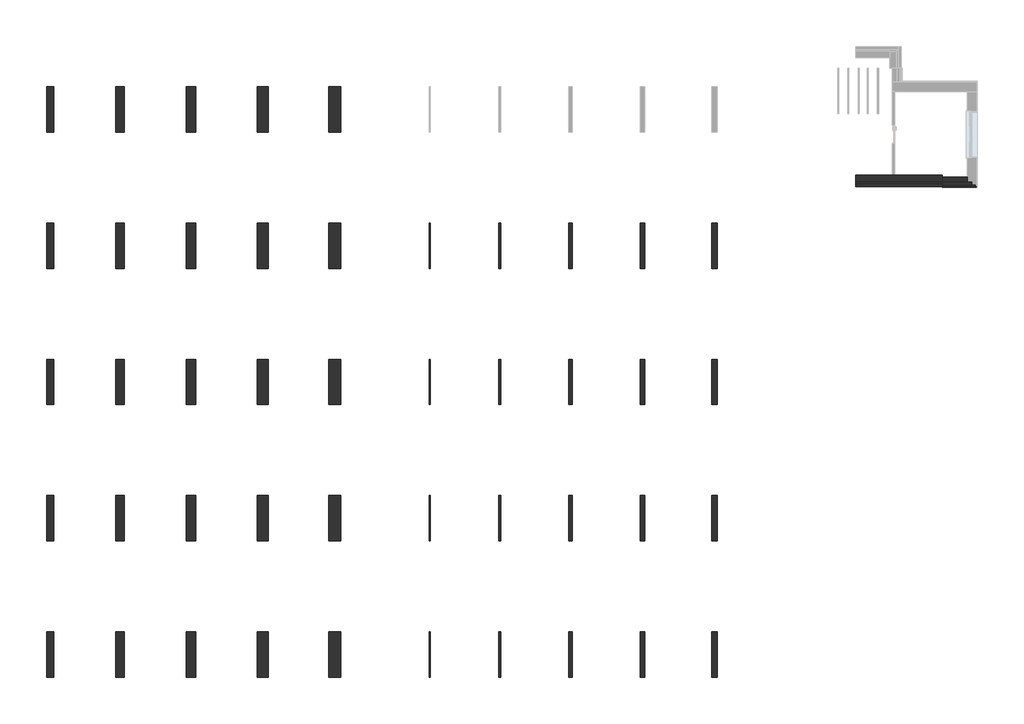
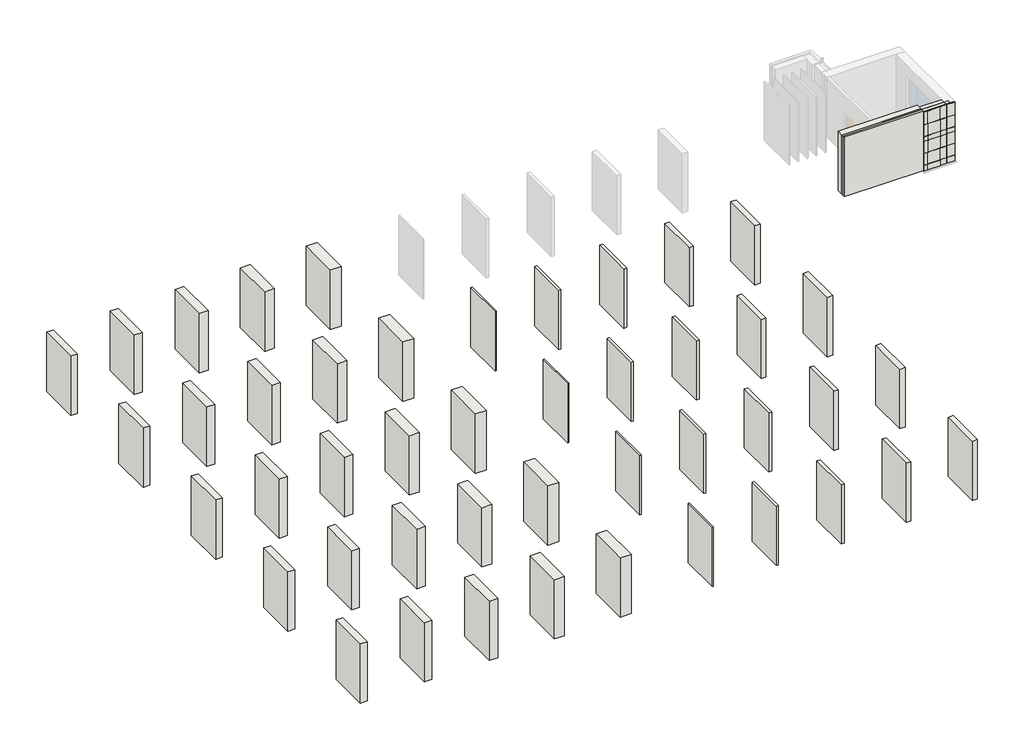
# One storey, part 1 of 2: 47 walls.
"""IFC4 building model written with IfcOpenShell, lengths in millimetres."""

from ifc_helpers import new_model, si_unit, frame, origin, origin_with_axes, place, context, project, spatial, polyline, outline, extrude, faceted_brep, element, save

model = new_model("IFC4")

# Units and contexts
model_context = context("Model", 3, world=origin())
ifc_project = project(units=[si_unit("LENGTHUNIT", "METRE", prefix="MILLI")], contexts=[model_context])

# Site, building, storey
site = spatial("IfcSite", under=ifc_project)
building = spatial("IfcBuilding", under=site)
storey = spatial("IfcBuildingStorey", under=building, Name="Этаж 1", Elevation=0.0)

# Walls
placement = place(None, origin())
element("IfcWall", 1, ObjectType="ВЕНТ-ФАСАД 320мм (Изоляция ЭКОВЕР Вент-фасад 50мм)", at=placement, inside=storey, context=model_context, shape_type="SweptSolid", body=[
    extrude(outline(polyline([(-242.278481, 1971.7721519), (-242.278481, 3971.7721519), (77.721519, 3971.7721519), (77.721519, 1971.7721519), (-242.278481, 1971.7721519)])), origin_with_axes(), (0.0, 0.0, 1.0), 3000.0),
])
element("IfcWall", 2, ObjectType="ВЕНТ-ФАСАД 370мм (Изоляция ЭКОВЕР ВЕНТ-ФАСАД 100мм)", at=placement, inside=storey, context=model_context, shape_type="SweptSolid", body=[
    extrude(outline(polyline([(2807.721519, 1971.7721519), (2807.721519, 3971.7721519), (3177.721519, 3971.7721519), (3177.721519, 1971.7721519), (2807.721519, 1971.7721519)])), origin_with_axes(), (0.0, 0.0, 1.0), 3000.0),
])
element("IfcWall", 3, ObjectType="ВЕНТ-ФАСАД 420мм (Изоляция ЭКОВЕР Вент-фасад 150мм)", at=placement, inside=storey, context=model_context, shape_type="SweptSolid", body=[
    extrude(outline(polyline([(5907.721519, 1971.7721519), (5907.721519, 3971.7721519), (6327.721519, 3971.7721519), (6327.721519, 1971.7721519), (5907.721519, 1971.7721519)])), origin_with_axes(), (0.0, 0.0, 1.0), 3000.0),
])
element("IfcWall", 4, ObjectType="ВЕНТ-ФАСАД 470мм (Изоляция ЭКОВЕР ВЕНТ-ФАСАД 200мм)", at=placement, inside=storey, context=model_context, shape_type="SweptSolid", body=[
    extrude(outline(polyline([(9032.721519, 1971.7721519), (9032.721519, 3971.7721519), (9502.721519, 3971.7721519), (9502.721519, 1971.7721519), (9032.721519, 1971.7721519)])), origin_with_axes(), (0.0, 0.0, 1.0), 3000.0),
])
element("IfcWall", 5, ObjectType="ВЕНТ-ФАСАД 520мм (Изоляция ЭКОВЕР ВЕНТ-ФАСАД 250мм)", at=placement, inside=storey, context=model_context, shape_type="SweptSolid", body=[
    extrude(outline(polyline([(12182.721519, 1971.7721519), (12182.721519, 3971.7721519), (12702.721519, 3971.7721519), (12702.721519, 1971.7721519), (12182.721519, 1971.7721519)])), origin_with_axes(), (0.0, 0.0, 1.0), 3000.0),
])
element("IfcWall", 6, ObjectType="ВЕНТ-ФАСАД 320мм (Изоляция ЭКОВЕР Вент-фасад 70 50мм)", at=placement, inside=storey, context=model_context, shape_type="SweptSolid", body=[
    extrude(outline(polyline([(-242.278481, -4028.2278481), (-242.278481, -2028.2278481), (77.721519, -2028.2278481), (77.721519, -4028.2278481), (-242.278481, -4028.2278481)])), origin_with_axes(), (0.0, 0.0, 1.0), 3000.0),
])
element("IfcWall", 7, ObjectType="ВЕНТ-ФАСАД 370мм (Изоляция ЭКОВЕР ВЕНТ-ФАСАД 70 100мм)", at=placement, inside=storey, context=model_context, shape_type="SweptSolid", body=[
    extrude(outline(polyline([(2807.721519, -4028.2278481), (2807.721519, -2028.2278481), (3177.721519, -2028.2278481), (3177.721519, -4028.2278481), (2807.721519, -4028.2278481)])), origin_with_axes(), (0.0, 0.0, 1.0), 3000.0),
])
element("IfcWall", 8, ObjectType="ВЕНТ-ФАСАД 420мм (Изоляция ЭКОВЕР Вент-фасад 70 150мм)", at=placement, inside=storey, context=model_context, shape_type="SweptSolid", body=[
    extrude(outline(polyline([(5907.721519, -4028.2278481), (5907.721519, -2028.2278481), (6327.721519, -2028.2278481), (6327.721519, -4028.2278481), (5907.721519, -4028.2278481)])), origin_with_axes(), (0.0, 0.0, 1.0), 3000.0),
])
element("IfcWall", 9, ObjectType="ВЕНТ-ФАСАД 470мм (Изоляция ЭКОВЕР ВЕНТ-ФАСАД 70 200мм)", at=placement, inside=storey, context=model_context, shape_type="SweptSolid", body=[
    extrude(outline(polyline([(9032.721519, -4028.2278481), (9032.721519, -2028.2278481), (9502.721519, -2028.2278481), (9502.721519, -4028.2278481), (9032.721519, -4028.2278481)])), origin_with_axes(), (0.0, 0.0, 1.0), 3000.0),
])
element("IfcWall", 10, ObjectType="ВЕНТ-ФАСАД 520мм (Изоляция ЭКОВЕР ВЕНТ-ФАСАД 70 250мм)", at=placement, inside=storey, context=model_context, shape_type="SweptSolid", body=[
    extrude(outline(polyline([(12182.721519, -4028.2278481), (12182.721519, -2028.2278481), (12702.721519, -2028.2278481), (12702.721519, -4028.2278481), (12182.721519, -4028.2278481)])), origin_with_axes(), (0.0, 0.0, 1.0), 3000.0),
])
element("IfcWall", 11, ObjectType="ВЕНТ-ФАСАД 320мм (Изоляция ЭКОВЕР Вент-фасад 80 50мм)", at=placement, inside=storey, context=model_context, shape_type="SweptSolid", body=[
    extrude(outline(polyline([(-242.278481, -10028.2278481), (-242.278481, -8028.2278481), (77.721519, -8028.2278481), (77.721519, -10028.2278481), (-242.278481, -10028.2278481)])), origin_with_axes(), (0.0, 0.0, 1.0), 3000.0),
])
element("IfcWall", 12, ObjectType="ВЕНТ-ФАСАД 370мм (Изоляция ЭКОВЕР ВЕНТ-ФАСАД 80 100мм)", at=placement, inside=storey, context=model_context, shape_type="SweptSolid", body=[
    extrude(outline(polyline([(2807.721519, -10028.2278481), (2807.721519, -8028.2278481), (3177.721519, -8028.2278481), (3177.721519, -10028.2278481), (2807.721519, -10028.2278481)])), origin_with_axes(), (0.0, 0.0, 1.0), 3000.0),
])
element("IfcWall", 13, ObjectType="ВЕНТ-ФАСАД 420мм (Изоляция ЭКОВЕР Вент-фасад 80 150мм)", at=placement, inside=storey, context=model_context, shape_type="SweptSolid", body=[
    extrude(outline(polyline([(5907.721519, -10028.2278481), (5907.721519, -8028.2278481), (6327.721519, -8028.2278481), (6327.721519, -10028.2278481), (5907.721519, -10028.2278481)])), origin_with_axes(), (0.0, 0.0, 1.0), 3000.0),
])
element("IfcWall", 14, ObjectType="ВЕНТ-ФАСАД 470мм (Изоляция ЭКОВЕР ВЕНТ-ФАСАД 80 200мм)", at=placement, inside=storey, context=model_context, shape_type="SweptSolid", body=[
    extrude(outline(polyline([(9032.721519, -10028.2278481), (9032.721519, -8028.2278481), (9502.721519, -8028.2278481), (9502.721519, -10028.2278481), (9032.721519, -10028.2278481)])), origin_with_axes(), (0.0, 0.0, 1.0), 3000.0),
])
element("IfcWall", 15, ObjectType="ВЕНТ-ФАСАД 520мм (Изоляция ЭКОВЕР ВЕНТ-ФАСАД 80 250мм)", at=placement, inside=storey, context=model_context, shape_type="SweptSolid", body=[
    extrude(outline(polyline([(12182.721519, -10028.2278481), (12182.721519, -8028.2278481), (12702.721519, -8028.2278481), (12702.721519, -10028.2278481), (12182.721519, -10028.2278481)])), origin_with_axes(), (0.0, 0.0, 1.0), 3000.0),
])
element("IfcWall", 16, ObjectType="ВЕНТ-ФАСАД 320мм (Изоляция ЭКОВЕР Вент-фасад 90 50мм)", at=placement, inside=storey, context=model_context, shape_type="SweptSolid", body=[
    extrude(outline(polyline([(-242.278481, -16028.2278481), (-242.278481, -14028.2278481), (77.721519, -14028.2278481), (77.721519, -16028.2278481), (-242.278481, -16028.2278481)])), origin_with_axes(), (0.0, 0.0, 1.0), 3000.0),
])
element("IfcWall", 17, ObjectType="ВЕНТ-ФАСАД 370мм (Изоляция ЭКОВЕР ВЕНТ-ФАСАД 90 100мм)", at=placement, inside=storey, context=model_context, shape_type="SweptSolid", body=[
    extrude(outline(polyline([(2807.721519, -16028.2278481), (2807.721519, -14028.2278481), (3177.721519, -14028.2278481), (3177.721519, -16028.2278481), (2807.721519, -16028.2278481)])), origin_with_axes(), (0.0, 0.0, 1.0), 3000.0),
])
element("IfcWall", 18, ObjectType="ВЕНТ-ФАСАД 420мм (Изоляция ЭКОВЕР Вент-фасад 90 150мм)", at=placement, inside=storey, context=model_context, shape_type="SweptSolid", body=[
    extrude(outline(polyline([(5907.721519, -16028.2278481), (5907.721519, -14028.2278481), (6327.721519, -14028.2278481), (6327.721519, -16028.2278481), (5907.721519, -16028.2278481)])), origin_with_axes(), (0.0, 0.0, 1.0), 3000.0),
])
element("IfcWall", 19, ObjectType="ВЕНТ-ФАСАД 470мм (Изоляция ЭКОВЕР ВЕНТ-ФАСАД 90 200мм)", at=placement, inside=storey, context=model_context, shape_type="SweptSolid", body=[
    extrude(outline(polyline([(9032.721519, -16028.2278481), (9032.721519, -14028.2278481), (9502.721519, -14028.2278481), (9502.721519, -16028.2278481), (9032.721519, -16028.2278481)])), origin_with_axes(), (0.0, 0.0, 1.0), 3000.0),
])
element("IfcWall", 20, ObjectType="ВЕНТ-ФАСАД 520мм (Изоляция ЭКОВЕР ВЕНТ-ФАСАД 90 250мм)", at=placement, inside=storey, context=model_context, shape_type="SweptSolid", body=[
    extrude(outline(polyline([(12182.721519, -16028.2278481), (12182.721519, -14028.2278481), (12702.721519, -14028.2278481), (12702.721519, -16028.2278481), (12182.721519, -16028.2278481)])), origin_with_axes(), (0.0, 0.0, 1.0), 3000.0),
])
element("IfcWall", 21, ObjectType="ВЕНТ-ФАСАД 320мм (Изоляция ЭКОВЕР Вент-фасад 120 50мм)", at=placement, inside=storey, context=model_context, shape_type="SweptSolid", body=[
    extrude(outline(polyline([(-242.278481, -22028.2278481), (-242.278481, -20028.2278481), (77.721519, -20028.2278481), (77.721519, -22028.2278481), (-242.278481, -22028.2278481)])), origin_with_axes(), (0.0, 0.0, 1.0), 3000.0),
])
element("IfcWall", 22, ObjectType="ВЕНТ-ФАСАД 370мм (Изоляция ЭКОВЕР ВЕНТ-ФАСАД 120 100мм)", at=placement, inside=storey, context=model_context, shape_type="SweptSolid", body=[
    extrude(outline(polyline([(2807.721519, -22028.2278481), (2807.721519, -20028.2278481), (3177.721519, -20028.2278481), (3177.721519, -22028.2278481), (2807.721519, -22028.2278481)])), origin_with_axes(), (0.0, 0.0, 1.0), 3000.0),
])
element("IfcWall", 23, ObjectType="ВЕНТ-ФАСАД 420мм (Изоляция ЭКОВЕР Вент-фасад 120 150мм)", at=placement, inside=storey, context=model_context, shape_type="SweptSolid", body=[
    extrude(outline(polyline([(5907.721519, -22028.2278481), (5907.721519, -20028.2278481), (6327.721519, -20028.2278481), (6327.721519, -22028.2278481), (5907.721519, -22028.2278481)])), origin_with_axes(), (0.0, 0.0, 1.0), 3000.0),
])
element("IfcWall", 24, ObjectType="ВЕНТ-ФАСАД 470мм (Изоляция ЭКОВЕР ВЕНТ-ФАСАД 120 200мм)", at=placement, inside=storey, context=model_context, shape_type="SweptSolid", body=[
    extrude(outline(polyline([(9032.721519, -22028.2278481), (9032.721519, -20028.2278481), (9502.721519, -20028.2278481), (9502.721519, -22028.2278481), (9032.721519, -22028.2278481)])), origin_with_axes(), (0.0, 0.0, 1.0), 3000.0),
])
element("IfcWall", 25, ObjectType="ВЕНТ-ФАСАД 520мм (Изоляция ЭКОВЕР ВЕНТ-ФАСАД 120 250мм)", at=placement, inside=storey, context=model_context, shape_type="SweptSolid", body=[
    extrude(outline(polyline([(12182.721519, -22028.2278481), (12182.721519, -20028.2278481), (12702.721519, -20028.2278481), (12702.721519, -22028.2278481), (12182.721519, -22028.2278481)])), origin_with_axes(), (0.0, 0.0, 1.0), 3000.0),
])
element("IfcWall", 26, ObjectType="Утеплитель 50мм (ЭКОВЕР ВЕНТ-ФАСАД  70)", at=placement, inside=storey, context=model_context, shape_type="SweptSolid", body=[
    extrude(outline(polyline([(16592.721519, -4028.2278481), (16592.721519, -2028.2278481), (16642.721519, -2028.2278481), (16642.721519, -4028.2278481), (16592.721519, -4028.2278481)])), origin_with_axes(), (0.0, 0.0, 1.0), 3000.0),
])
element("IfcWall", 27, ObjectType="Утеплитель 100мм (ЭКОВЕР ВЕНТ-ФАСАД  70)", at=placement, inside=storey, context=model_context, shape_type="SweptSolid", body=[
    extrude(outline(polyline([(19642.721519, -4028.2278481), (19642.721519, -2028.2278481), (19742.721519, -2028.2278481), (19742.721519, -4028.2278481), (19642.721519, -4028.2278481)])), origin_with_axes(), (0.0, 0.0, 1.0), 3000.0),
])
element("IfcWall", 28, ObjectType="Утеплитель 150мм (ЭКОВЕР ВЕНТ-ФАСАД  70)", at=placement, inside=storey, context=model_context, shape_type="SweptSolid", body=[
    extrude(outline(polyline([(22742.721519, -4028.2278481), (22742.721519, -2028.2278481), (22892.721519, -2028.2278481), (22892.721519, -4028.2278481), (22742.721519, -4028.2278481)])), origin_with_axes(), (0.0, 0.0, 1.0), 3000.0),
])
element("IfcWall", 29, ObjectType="Утеплитель 200мм (ЭКОВЕР ВЕНТ-ФАСАД  70)", at=placement, inside=storey, context=model_context, shape_type="SweptSolid", body=[
    extrude(outline(polyline([(25867.721519, -4028.2278481), (25867.721519, -2028.2278481), (26067.721519, -2028.2278481), (26067.721519, -4028.2278481), (25867.721519, -4028.2278481)])), origin_with_axes(), (0.0, 0.0, 1.0), 3000.0),
])
element("IfcWall", 30, ObjectType="Утеплитель 250мм (ЭКОВЕР ВЕНТ-ФАСАД  70)", at=placement, inside=storey, context=model_context, shape_type="SweptSolid", body=[
    extrude(outline(polyline([(29017.721519, -4028.2278481), (29017.721519, -2028.2278481), (29267.721519, -2028.2278481), (29267.721519, -4028.2278481), (29017.721519, -4028.2278481)])), origin_with_axes(), (0.0, 0.0, 1.0), 3000.0),
])
element("IfcWall", 31, ObjectType="Утеплитель 50мм (ЭКОВЕР ВЕНТ-ФАСАД  80)", at=placement, inside=storey, context=model_context, shape_type="SweptSolid", body=[
    extrude(outline(polyline([(16592.721519, -10028.2278481), (16592.721519, -8028.2278481), (16642.721519, -8028.2278481), (16642.721519, -10028.2278481), (16592.721519, -10028.2278481)])), origin_with_axes(), (0.0, 0.0, 1.0), 3000.0),
])
element("IfcWall", 32, ObjectType="Утеплитель 100мм (ЭКОВЕР ВЕНТ-ФАСАД  80)", at=placement, inside=storey, context=model_context, shape_type="SweptSolid", body=[
    extrude(outline(polyline([(19642.721519, -10028.2278481), (19642.721519, -8028.2278481), (19742.721519, -8028.2278481), (19742.721519, -10028.2278481), (19642.721519, -10028.2278481)])), origin_with_axes(), (0.0, 0.0, 1.0), 3000.0),
])
element("IfcWall", 33, ObjectType="Утеплитель 150мм (ЭКОВЕР ВЕНТ-ФАСАД  80)", at=placement, inside=storey, context=model_context, shape_type="SweptSolid", body=[
    extrude(outline(polyline([(22742.721519, -10028.2278481), (22742.721519, -8028.2278481), (22892.721519, -8028.2278481), (22892.721519, -10028.2278481), (22742.721519, -10028.2278481)])), origin_with_axes(), (0.0, 0.0, 1.0), 3000.0),
])
element("IfcWall", 34, ObjectType="Утеплитель 200мм (ЭКОВЕР ВЕНТ-ФАСАД  80)", at=placement, inside=storey, context=model_context, shape_type="SweptSolid", body=[
    extrude(outline(polyline([(25867.721519, -10028.2278481), (25867.721519, -8028.2278481), (26067.721519, -8028.2278481), (26067.721519, -10028.2278481), (25867.721519, -10028.2278481)])), origin_with_axes(), (0.0, 0.0, 1.0), 3000.0),
])
element("IfcWall", 35, ObjectType="Утеплитель 250мм (ЭКОВЕР ВЕНТ-ФАСАД  80)", at=placement, inside=storey, context=model_context, shape_type="SweptSolid", body=[
    extrude(outline(polyline([(29017.721519, -10028.2278481), (29017.721519, -8028.2278481), (29267.721519, -8028.2278481), (29267.721519, -10028.2278481), (29017.721519, -10028.2278481)])), origin_with_axes(), (0.0, 0.0, 1.0), 3000.0),
])
element("IfcWall", 36, ObjectType="Утеплитель 50мм (ЭКОВЕР ВЕНТ-ФАСАД  90)", at=placement, inside=storey, context=model_context, shape_type="SweptSolid", body=[
    extrude(outline(polyline([(16592.721519, -16028.2278481), (16592.721519, -14028.2278481), (16642.721519, -14028.2278481), (16642.721519, -16028.2278481), (16592.721519, -16028.2278481)])), origin_with_axes(), (0.0, 0.0, 1.0), 3000.0),
])
element("IfcWall", 37, ObjectType="Утеплитель 100мм (ЭКОВЕР ВЕНТ-ФАСАД  90)", at=placement, inside=storey, context=model_context, shape_type="SweptSolid", body=[
    extrude(outline(polyline([(19642.721519, -16028.2278481), (19642.721519, -14028.2278481), (19742.721519, -14028.2278481), (19742.721519, -16028.2278481), (19642.721519, -16028.2278481)])), origin_with_axes(), (0.0, 0.0, 1.0), 3000.0),
])
element("IfcWall", 38, ObjectType="Утеплитель 150мм (ЭКОВЕР ВЕНТ-ФАСАД  90)", at=placement, inside=storey, context=model_context, shape_type="SweptSolid", body=[
    extrude(outline(polyline([(22742.721519, -16028.2278481), (22742.721519, -14028.2278481), (22892.721519, -14028.2278481), (22892.721519, -16028.2278481), (22742.721519, -16028.2278481)])), origin_with_axes(), (0.0, 0.0, 1.0), 3000.0),
])
element("IfcWall", 39, ObjectType="Утеплитель 200мм (ЭКОВЕР ВЕНТ-ФАСАД  90)", at=placement, inside=storey, context=model_context, shape_type="SweptSolid", body=[
    extrude(outline(polyline([(25867.721519, -16028.2278481), (25867.721519, -14028.2278481), (26067.721519, -14028.2278481), (26067.721519, -16028.2278481), (25867.721519, -16028.2278481)])), origin_with_axes(), (0.0, 0.0, 1.0), 3000.0),
])
element("IfcWall", 40, ObjectType="Утеплитель 250мм (ЭКОВЕР ВЕНТ-ФАСАД  90)", at=placement, inside=storey, context=model_context, shape_type="SweptSolid", body=[
    extrude(outline(polyline([(29017.721519, -16028.2278481), (29017.721519, -14028.2278481), (29267.721519, -14028.2278481), (29267.721519, -16028.2278481), (29017.721519, -16028.2278481)])), origin_with_axes(), (0.0, 0.0, 1.0), 3000.0),
])
element("IfcWall", 41, ObjectType="Утеплитель 50мм (ЭКОВЕР ВЕНТ-ФАСАД  120)", at=placement, inside=storey, context=model_context, shape_type="SweptSolid", body=[
    extrude(outline(polyline([(16592.721519, -22028.2278481), (16592.721519, -20028.2278481), (16642.721519, -20028.2278481), (16642.721519, -22028.2278481), (16592.721519, -22028.2278481)])), origin_with_axes(), (0.0, 0.0, 1.0), 3000.0),
])
element("IfcWall", 42, ObjectType="Утеплитель 100мм (ЭКОВЕР ВЕНТ-ФАСАД  120)", at=placement, inside=storey, context=model_context, shape_type="SweptSolid", body=[
    extrude(outline(polyline([(19642.721519, -22028.2278481), (19642.721519, -20028.2278481), (19742.721519, -20028.2278481), (19742.721519, -22028.2278481), (19642.721519, -22028.2278481)])), origin_with_axes(), (0.0, 0.0, 1.0), 3000.0),
])
element("IfcWall", 43, ObjectType="Утеплитель 150мм (ЭКОВЕР ВЕНТ-ФАСАД  120)", at=placement, inside=storey, context=model_context, shape_type="SweptSolid", body=[
    extrude(outline(polyline([(22742.721519, -22028.2278481), (22742.721519, -20028.2278481), (22892.721519, -20028.2278481), (22892.721519, -22028.2278481), (22742.721519, -22028.2278481)])), origin_with_axes(), (0.0, 0.0, 1.0), 3000.0),
])
element("IfcWall", 44, ObjectType="Утеплитель 200мм (ЭКОВЕР ВЕНТ-ФАСАД  120)", at=placement, inside=storey, context=model_context, shape_type="SweptSolid", body=[
    extrude(outline(polyline([(25867.721519, -22028.2278481), (25867.721519, -20028.2278481), (26067.721519, -20028.2278481), (26067.721519, -22028.2278481), (25867.721519, -22028.2278481)])), origin_with_axes(), (0.0, 0.0, 1.0), 3000.0),
])
element("IfcWall", 45, ObjectType="Утеплитель 520мм (ЭКОВЕР ВЕНТ-ФАСАД  120)", at=placement, inside=storey, context=model_context, shape_type="SweptSolid", body=[
    extrude(outline(polyline([(29017.721519, -22028.2278481), (29017.721519, -20028.2278481), (29267.721519, -20028.2278481), (29267.721519, -22028.2278481), (29017.721519, -22028.2278481)])), origin_with_axes(), (0.0, 0.0, 1.0), 3000.0),
])
element("IfcWall", 46, ObjectType="ВЕНТ-ФАСАД 420мм (Изоляция ЭКОВЕР Вент-фасад 150мм)", at=placement, inside=storey, context=model_context, shape_type="SolidModel", body=[
    faceted_brep([(39157.721519, -218.2278481, 39.5145468), (39157.721519, -368.2278481, 39.5145468), (39157.721519, -368.2278481, 50.0), (39157.721519, -368.2278481, 3000.0), (39157.721519, -218.2278481, 3000.0), (39157.721519, -218.2278481, 50.0), (40457.721519, -368.2278481, 3000.0), (40457.721519, -218.2278481, 3000.0), (40457.721519, -218.2278481, 39.5145468), (40457.721519, -368.2278481, 39.5145468), (40457.721519, -368.2278481, 50.0), (40457.721519, -218.2278481, 50.0)], [[[0, 1, 2, 3, 4, 5]], [[3, 6, 7, 4]], [[1, 0, 8, 9]], [[2, 1, 9, 10, 6, 3]], [[0, 5, 4, 7, 11, 8]], [[10, 9, 8, 11, 7, 6]]]),
    faceted_brep([(39157.721519, -368.2278481, 39.5145468), (39157.721519, -418.2278481, 39.5145468), (39157.721519, -418.2278481, 50.0), (39157.721519, -418.2278481, 3000.0), (39157.721519, -368.2278481, 3000.0), (39157.721519, -368.2278481, 50.0), (40607.721519, -418.2278481, 3000.0), (40607.721519, -368.2278481, 3000.0), (40607.721519, -368.2278481, 39.5145468), (40607.721519, -418.2278481, 39.5145468), (40607.721519, -368.2278481, 50.0), (40607.721519, -418.2278481, 50.0)], [[[0, 1, 2, 3, 4, 5]], [[3, 6, 7, 4]], [[1, 0, 8, 9]], [[0, 5, 4, 7, 10, 8]], [[2, 1, 9, 11, 6, 3]], [[11, 9, 8, 10, 7, 6]]]),
    faceted_brep([(39157.721519, -18.2278481, 50.0), (39157.721519, -18.2278481, 39.5145468), (39157.721519, -218.2278481, 39.5145468), (39157.721519, -218.2278481, 50.0), (39157.721519, -218.2278481, 3000.0), (39157.721519, -18.2278481, 3000.0), (40257.721519, -18.2278481, 39.5145468), (40257.721519, -18.2278481, 50.0), (40257.721519, -18.2278481, 3000.0), (40257.721519, -218.2278481, 3000.0), (40257.721519, -218.2278481, 50.0), (40257.721519, -218.2278481, 39.5145468)], [[[0, 1, 2, 3, 4, 5]], [[6, 7, 8, 9, 10, 11]], [[1, 0, 5, 8, 7, 6]], [[8, 5, 4, 9]], [[2, 1, 6, 11]], [[3, 2, 11, 10, 9, 4]]]),
    extrude(outline(polyline([(39965.0891421, -438.2278481), (39965.0891421, -418.2278481), (40657.721519, -418.2278481), (40657.721519, -438.2278481), (39965.0891421, -438.2278481)])), frame((0.0, 0.0, 2370.0), z_axis=(0.0, 0.0, 1.0), x_axis=(1.0, 0.0, 0.0)), (0.0, 0.0, 1.0), 630.0),
    extrude(outline(polyline([(39955.0891421, -438.2278481), (39365.0891421, -438.2278481), (39365.0891421, -418.2278481), (39955.0891421, -418.2278481), (39955.0891421, -438.2278481)])), frame((0.0, 0.0, 39.5145468), z_axis=(0.0, 0.0, 1.0), x_axis=(1.0, 0.0, 0.0)), (0.0, 0.0, 1.0), 275.4854532),
    faceted_brep([(39355.0891421, -418.2278481, 315.0), (39355.0891421, -438.2278481, 315.0), (39355.0891421, -438.2278481, 39.5145468), (39355.0891421, -418.2278481, 39.5145468), (39157.721519, -418.2278481, 315.0), (39157.721519, -438.2278481, 315.0), (39157.721519, -438.2278481, 39.5145468), (39157.721519, -438.2278481, 50.0), (39157.721519, -418.2278481, 50.0), (39157.721519, -418.2278481, 39.5145468)], [[[0, 1, 2, 3]], [[1, 0, 4, 5]], [[6, 7, 5, 4, 8, 9]], [[7, 6, 2, 1, 5]], [[6, 9, 3, 2]], [[9, 8, 4, 0, 3]]]),
    faceted_brep([(39965.0891421, -418.2278481, 315.0), (39965.0891421, -438.2278481, 315.0), (40657.721519, -438.2278481, 315.0), (40657.721519, -418.2278481, 315.0), (39965.0891421, -418.2278481, 39.5145468), (39965.0891421, -438.2278481, 39.5145468), (40657.721519, -438.2278481, 39.5145468), (40657.721519, -438.2278481, 50.0), (40657.721519, -418.2278481, 39.5145468), (40657.721519, -418.2278481, 50.0)], [[[0, 1, 2, 3]], [[1, 0, 4, 5]], [[6, 7, 2, 1, 5]], [[8, 6, 5, 4]], [[7, 6, 8, 9, 3, 2]], [[9, 8, 4, 0, 3]]]),
    extrude(outline(polyline([(39965.0891421, -438.2278481), (39965.0891421, -418.2278481), (40657.721519, -418.2278481), (40657.721519, -438.2278481), (39965.0891421, -438.2278481)])), frame((0.0, 0.0, 325.0), z_axis=(0.0, 0.0, 1.0), x_axis=(1.0, 0.0, 0.0)), (0.0, 0.0, 1.0), 590.0),
    extrude(outline(polyline([(39355.0891421, -418.2278481), (39355.0891421, -438.2278481), (39157.721519, -438.2278481), (39157.721519, -418.2278481), (39355.0891421, -418.2278481)])), frame((0.0, 0.0, 925.0), z_axis=(0.0, 0.0, 1.0), x_axis=(1.0, 0.0, 0.0)), (0.0, 0.0, 1.0), 590.0),
    extrude(outline(polyline([(39355.0891421, -418.2278481), (39355.0891421, -438.2278481), (39157.721519, -438.2278481), (39157.721519, -418.2278481), (39355.0891421, -418.2278481)])), frame((0.0, 0.0, 1525.0), z_axis=(0.0, 0.0, 1.0), x_axis=(1.0, 0.0, 0.0)), (0.0, 0.0, 1.0), 235.0),
    extrude(outline(polyline([(39955.0891421, -418.2278481), (39955.0891421, -438.2278481), (39365.0891421, -438.2278481), (39365.0891421, -418.2278481), (39955.0891421, -418.2278481)])), frame((0.0, 0.0, 325.0), z_axis=(0.0, 0.0, 1.0), x_axis=(1.0, 0.0, 0.0)), (0.0, 0.0, 1.0), 590.0),
    extrude(outline(polyline([(39955.0891421, -418.2278481), (39955.0891421, -438.2278481), (39365.0891421, -438.2278481), (39365.0891421, -418.2278481), (39955.0891421, -418.2278481)])), frame((0.0, 0.0, 925.0), z_axis=(0.0, 0.0, 1.0), x_axis=(1.0, 0.0, 0.0)), (0.0, 0.0, 1.0), 590.0),
    extrude(outline(polyline([(39355.0891421, -418.2278481), (39355.0891421, -438.2278481), (39157.721519, -438.2278481), (39157.721519, -418.2278481), (39355.0891421, -418.2278481)])), frame((0.0, 0.0, 325.0), z_axis=(0.0, 0.0, 1.0), x_axis=(1.0, 0.0, 0.0)), (0.0, 0.0, 1.0), 590.0),
    extrude(outline(polyline([(39965.0891421, -438.2278481), (39965.0891421, -418.2278481), (40657.721519, -418.2278481), (40657.721519, -438.2278481), (39965.0891421, -438.2278481)])), frame((0.0, 0.0, 925.0), z_axis=(0.0, 0.0, 1.0), x_axis=(1.0, 0.0, 0.0)), (0.0, 0.0, 1.0), 590.0),
    extrude(outline(polyline([(39355.0891421, -418.2278481), (39355.0891421, -438.2278481), (39157.721519, -438.2278481), (39157.721519, -418.2278481), (39355.0891421, -418.2278481)])), frame((0.0, 0.0, 1770.0), z_axis=(0.0, 0.0, 1.0), x_axis=(1.0, 0.0, 0.0)), (0.0, 0.0, 1.0), 590.0),
    extrude(outline(polyline([(39955.0891421, -418.2278481), (39955.0891421, -438.2278481), (39365.0891421, -438.2278481), (39365.0891421, -418.2278481), (39955.0891421, -418.2278481)])), frame((0.0, 0.0, 1770.0), z_axis=(0.0, 0.0, 1.0), x_axis=(1.0, 0.0, 0.0)), (0.0, 0.0, 1.0), 590.0),
    extrude(outline(polyline([(39955.0891421, -418.2278481), (39955.0891421, -438.2278481), (39365.0891421, -438.2278481), (39365.0891421, -418.2278481), (39955.0891421, -418.2278481)])), frame((0.0, 0.0, 1525.0), z_axis=(0.0, 0.0, 1.0), x_axis=(1.0, 0.0, 0.0)), (0.0, 0.0, 1.0), 235.0),
    extrude(outline(polyline([(39965.0891421, -438.2278481), (39965.0891421, -418.2278481), (40657.721519, -418.2278481), (40657.721519, -438.2278481), (39965.0891421, -438.2278481)])), frame((0.0, 0.0, 1525.0), z_axis=(0.0, 0.0, 1.0), x_axis=(1.0, 0.0, 0.0)), (0.0, 0.0, 1.0), 235.0),
    extrude(outline(polyline([(39965.0891421, -438.2278481), (39965.0891421, -418.2278481), (40657.721519, -418.2278481), (40657.721519, -438.2278481), (39965.0891421, -438.2278481)])), frame((0.0, 0.0, 1770.0), z_axis=(0.0, 0.0, 1.0), x_axis=(1.0, 0.0, 0.0)), (0.0, 0.0, 1.0), 590.0),
    extrude(outline(polyline([(39955.0891421, -418.2278481), (39955.0891421, -438.2278481), (39365.0891421, -438.2278481), (39365.0891421, -418.2278481), (39955.0891421, -418.2278481)])), frame((0.0, 0.0, 2370.0), z_axis=(0.0, 0.0, 1.0), x_axis=(1.0, 0.0, 0.0)), (0.0, 0.0, 1.0), 630.0),
    extrude(outline(polyline([(39355.0891421, -418.2278481), (39355.0891421, -438.2278481), (39157.721519, -438.2278481), (39157.721519, -418.2278481), (39355.0891421, -418.2278481)])), frame((0.0, 0.0, 2370.0), z_axis=(0.0, 0.0, 1.0), x_axis=(1.0, 0.0, 0.0)), (0.0, 0.0, 1.0), 630.0),
])
element("IfcWall", 47, ObjectType="Газобетон 300 Ут 10 Кирпич 120 (520)", at=placement, inside=storey, context=model_context, shape_type="Brep", body=[
    faceted_brep([(35367.721519, -218.2278481, 50.0), (35367.721519, -298.2278481, 50.0), (35367.721519, -298.2278481, 3000.0), (35367.721519, -298.2278481, 3050.0), (35367.721519, -218.2278481, 3050.0), (35367.721519, -218.2278481, 3000.0), (39157.721519, -298.2278481, 50.0), (39157.721519, -218.2278481, 50.0), (39157.721519, -218.2278481, 3000.0), (39157.721519, -218.2278481, 3050.0), (39157.721519, -298.2278481, 3050.0), (39157.721519, -298.2278481, 3000.0)], [[[0, 1, 2, 3, 4, 5]], [[6, 7, 8, 9, 10, 11]], [[7, 6, 1, 0]], [[1, 6, 11, 10, 3, 2]], [[7, 0, 5, 4, 9, 8]], [[3, 10, 9, 4]]]),
    faceted_brep([(35367.721519, -298.2278481, 50.0), (35367.721519, -418.2278481, 50.0), (35367.721519, -418.2278481, 3000.0), (35367.721519, -418.2278481, 3050.0), (35367.721519, -298.2278481, 3050.0), (35367.721519, -298.2278481, 3000.0), (39157.721519, -418.2278481, 50.0), (39157.721519, -298.2278481, 50.0), (39157.721519, -298.2278481, 3000.0), (39157.721519, -298.2278481, 3050.0), (39157.721519, -418.2278481, 3050.0), (39157.721519, -418.2278481, 3000.0)], [[[0, 1, 2, 3, 4, 5]], [[6, 7, 8, 9, 10, 11]], [[1, 6, 11, 10, 3, 2]], [[6, 1, 0, 7]], [[7, 0, 5, 4, 9, 8]], [[3, 10, 9, 4]]]),
    faceted_brep([(39157.721519, 81.7721519, 50.0), (35367.721519, 81.7721519, 50.0), (35367.721519, 81.7721519, 3000.0), (35367.721519, 81.7721519, 3050.0), (39157.721519, 81.7721519, 3050.0), (39157.721519, 81.7721519, 3000.0), (39157.721519, -218.2278481, 50.0), (35367.721519, -218.2278481, 50.0), (35367.721519, -218.2278481, 3000.0), (35367.721519, -218.2278481, 3050.0), (39157.721519, -218.2278481, 3050.0), (39157.721519, -218.2278481, 3000.0)], [[[0, 1, 2, 3, 4, 5]], [[1, 0, 6, 7]], [[2, 1, 7, 8, 9, 3]], [[0, 5, 4, 10, 11, 6]], [[7, 6, 11, 10, 9, 8]], [[4, 3, 9, 10]]]),
])

save(model, "model.ifc")
